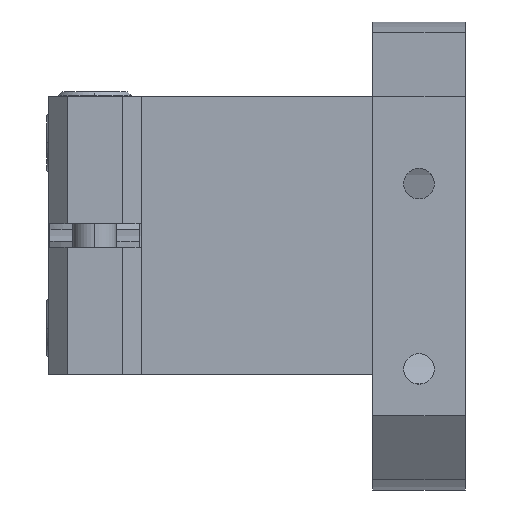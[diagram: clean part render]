
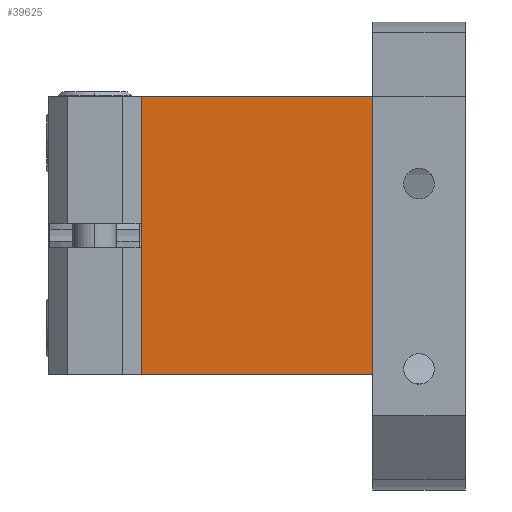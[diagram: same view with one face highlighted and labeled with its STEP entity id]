
A CAD part, left-side view. The second image highlights one B-rep face of the part: STEP entity #39625.
In plain terms, the highlighted planar face has unit normal (-1, 0, 0) as drawn and (0, 0, -1) by its records, which use the part's own axes.
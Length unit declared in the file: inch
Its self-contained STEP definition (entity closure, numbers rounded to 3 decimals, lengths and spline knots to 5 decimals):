
#8376 = VERTEX_POINT ( 'NONE', #67061 ) ;
#8420 = VERTEX_POINT ( 'NONE', #67058 ) ;
#10736 = EDGE_CURVE ( 'NONE', #45109, #44799, #12098, .T. ) ;
#10995 = EDGE_CURVE ( 'NONE', #44799, #8420, #12256, .T. ) ;
#11004 = EDGE_CURVE ( 'NONE', #45109, #8376, #12264, .T. ) ;
#11006 = EDGE_CURVE ( 'NONE', #8376, #8420, #12266, .T. ) ;
#12098 = LINE ( 'NONE', #65332, #12099 ) ;
#12099 = VECTOR ( 'NONE', #65331, 39.37008 ) ;
#12256 = LINE ( 'NONE', #61972, #12257 ) ;
#12257 = VECTOR ( 'NONE', #61971, 39.37008 ) ;
#12264 = LINE ( 'NONE', #61964, #12265 ) ;
#12265 = VECTOR ( 'NONE', #61963, 39.37008 ) ;
#12266 = LINE ( 'NONE', #61962, #12267 ) ;
#12267 = VECTOR ( 'NONE', #61961, 39.37008 ) ;
#22126 = ORIENTED_EDGE ( 'NONE', *, *, #11006, .T. ) ;
#22127 = ORIENTED_EDGE ( 'NONE', *, *, #10995, .F. ) ;
#22128 = ORIENTED_EDGE ( 'NONE', *, *, #10736, .F. ) ;
#22129 = ORIENTED_EDGE ( 'NONE', *, *, #11004, .T. ) ;
#23662 = CARTESIAN_POINT ( 'NONE',  ( 0., 1.25, -0.375 ) ) ;
#28553 = DIRECTION ( 'NONE',  ( 1., 0., 0. ) ) ;
#28554 = DIRECTION ( 'NONE',  ( 0., 0., 1. ) ) ;
#28555 = CARTESIAN_POINT ( 'NONE',  ( 0., 1.25, -0.375 ) ) ;
#28556 = PLANE ( 'NONE',  #60844 ) ;
#29672 = CARTESIAN_POINT ( 'NONE',  ( 1.5, 1.25, -0.375 ) ) ;
#39625 = ADVANCED_FACE ( 'NONE', ( #60612 ), #28556, .F. ) ;
#44799 = VERTEX_POINT ( 'NONE', #23662 ) ;
#45109 = VERTEX_POINT ( 'NONE', #29672 ) ;
#53472 = EDGE_LOOP ( 'NONE', ( #22126, #22127, #22128, #22129 ) ) ;
#60612 = FACE_OUTER_BOUND ( 'NONE', #53472, .T. ) ;
#60844 = AXIS2_PLACEMENT_3D ( 'NONE', #28555, #28554, #28553 ) ;
#61961 = DIRECTION ( 'NONE',  ( -1., 0., 0. ) ) ;
#61962 = CARTESIAN_POINT ( 'NONE',  ( 0., 0., -0.375 ) ) ;
#61963 = DIRECTION ( 'NONE',  ( 0., -1., 0. ) ) ;
#61964 = CARTESIAN_POINT ( 'NONE',  ( 1.5, 1.25, -0.375 ) ) ;
#61971 = DIRECTION ( 'NONE',  ( 0., -1., 0. ) ) ;
#61972 = CARTESIAN_POINT ( 'NONE',  ( 0., 1.25, -0.375 ) ) ;
#65331 = DIRECTION ( 'NONE',  ( -1., 0., 0. ) ) ;
#65332 = CARTESIAN_POINT ( 'NONE',  ( 0., 1.25, -0.375 ) ) ;
#67058 = CARTESIAN_POINT ( 'NONE',  ( 0., 0., -0.375 ) ) ;
#67061 = CARTESIAN_POINT ( 'NONE',  ( 1.5, 0., -0.375 ) ) ;
